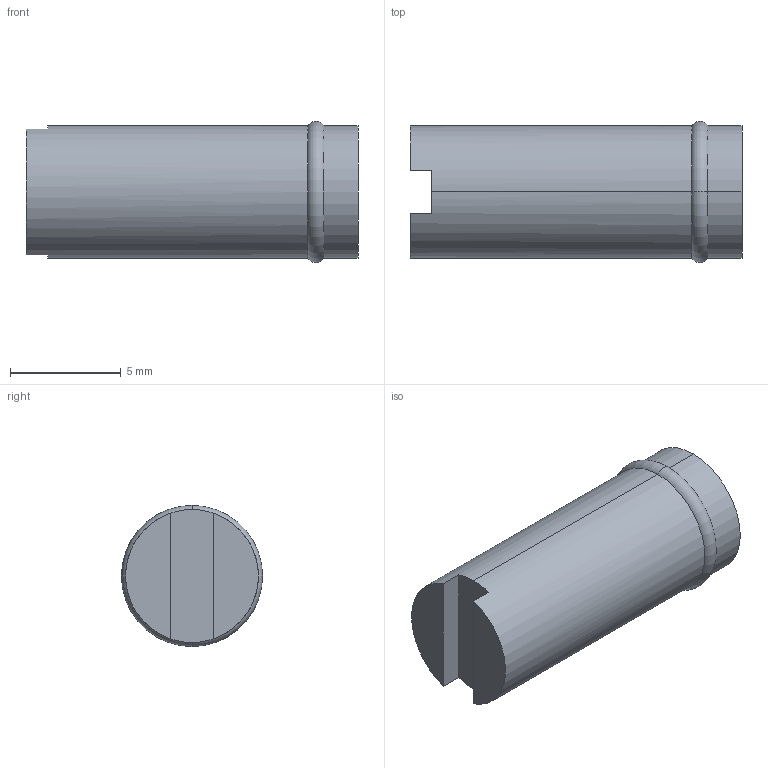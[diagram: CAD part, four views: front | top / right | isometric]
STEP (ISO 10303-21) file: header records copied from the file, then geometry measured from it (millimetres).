
FILE_DESCRIPTION (( 'STEP AP214' ), '1' );
FILE_NAME ('BRWV-6.STEP', '2020-06-23T10:45:17', ( '' ), ( '' ), 'SwSTEP 2.0', 'SolidWorks 2018', '' );
FILE_SCHEMA (( 'AUTOMOTIVE_DESIGN' ));
Length unit declared in the file: millimetre
Products named in the file (1): BRWV-6
Bounding box: 15 x 6.38 x 6.38 mm (x, y, z)
Volume: 414.9 mm3; surface area: 349.6 mm2
Topology: 1 solids, 1 shells, 12 faces, 26 edges, 16 vertices
Faces by surface type: plane 6, cylinder 4, torus 2
Entity records: 366 total; most frequent: DIRECTION 66, CARTESIAN_POINT 55, ORIENTED_EDGE 52, AXIS2_PLACEMENT_3D 27, EDGE_CURVE 26, VERTEX_POINT 16, CIRCLE 14, FACE_OUTER_BOUND 12
